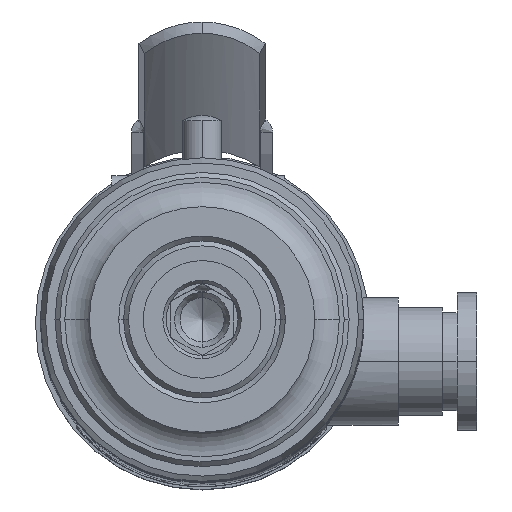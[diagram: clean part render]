
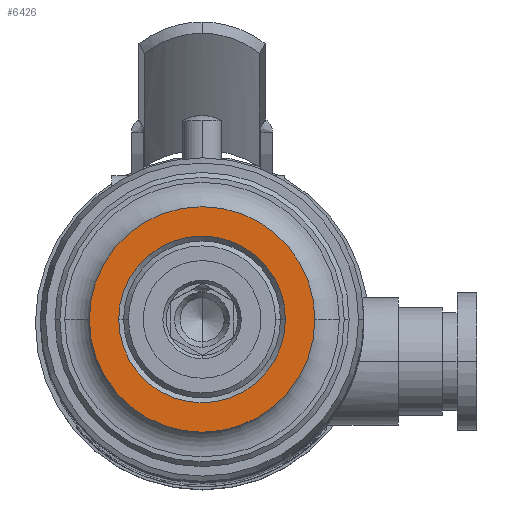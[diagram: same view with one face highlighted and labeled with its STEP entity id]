
A CAD part, top view. The second image highlights one B-rep face of the part: STEP entity #6426.
In plain terms, the highlighted planar face has unit normal (0, 0, 1).
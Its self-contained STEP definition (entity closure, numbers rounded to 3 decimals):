
#1130 = EDGE_LOOP ( 'NONE', ( #6589, #6573 ) ) ;
#5627 = VERTEX_POINT ( 'NONE', #12066 ) ;
#5727 = VERTEX_POINT ( 'NONE', #12428 ) ;
#5746 = VERTEX_POINT ( 'NONE', #12510 ) ;
#5755 = EDGE_CURVE ( 'NONE', #5627, #5746, #12499, .T. ) ;
#5960 = VERTEX_POINT ( 'NONE', #12925 ) ;
#6022 = EDGE_CURVE ( 'NONE', #5960, #5727, #12969, .T. ) ;
#6426 = ADVANCED_FACE ( 'NONE', ( #13965, #13964 ), #13963, .F. ) ;
#6429 = EDGE_CURVE ( 'NONE', #5727, #5960, #13952, .T. ) ;
#6550 = ORIENTED_EDGE ( 'NONE', *, *, #6429, .T. ) ;
#6555 = ORIENTED_EDGE ( 'NONE', *, *, #6022, .T. ) ;
#6556 = EDGE_LOOP ( 'NONE', ( #6555, #6550 ) ) ;
#6573 = ORIENTED_EDGE ( 'NONE', *, *, #5755, .F. ) ;
#6589 = ORIENTED_EDGE ( 'NONE', *, *, #6600, .F. ) ;
#6600 = EDGE_CURVE ( 'NONE', #5746, #5627, #14231, .T. ) ;
#12066 = CARTESIAN_POINT ( 'NONE',  ( -8.5, 0., 0. ) ) ;
#12428 = CARTESIAN_POINT ( 'NONE',  ( -11.5, 0., 0. ) ) ;
#12495 = DIRECTION ( 'NONE',  ( 1., 0., 0. ) ) ;
#12496 = DIRECTION ( 'NONE',  ( 0., 0., 1. ) ) ;
#12497 = CARTESIAN_POINT ( 'NONE',  ( 0., 0., 0. ) ) ;
#12498 = AXIS2_PLACEMENT_3D ( 'NONE', #12497, #12496, #12495 ) ;
#12499 = CIRCLE ( 'NONE', #12498, 8.5 ) ;
#12510 = CARTESIAN_POINT ( 'NONE',  ( 8.5, 0., 0. ) ) ;
#12925 = CARTESIAN_POINT ( 'NONE',  ( 11.5, 0., 0. ) ) ;
#12969 = CIRCLE ( 'NONE', #13028, 11.5 ) ;
#13025 = DIRECTION ( 'NONE',  ( 1., 0., 0. ) ) ;
#13026 = DIRECTION ( 'NONE',  ( 0., 0., 1. ) ) ;
#13027 = CARTESIAN_POINT ( 'NONE',  ( 0., 0., 0. ) ) ;
#13028 = AXIS2_PLACEMENT_3D ( 'NONE', #13027, #13026, #13025 ) ;
#13948 = DIRECTION ( 'NONE',  ( 1., 0., 0. ) ) ;
#13949 = DIRECTION ( 'NONE',  ( 0., 0., 1. ) ) ;
#13950 = CARTESIAN_POINT ( 'NONE',  ( 0., 0., 0. ) ) ;
#13951 = AXIS2_PLACEMENT_3D ( 'NONE', #13950, #13949, #13948 ) ;
#13952 = CIRCLE ( 'NONE', #13951, 11.5 ) ;
#13959 = DIRECTION ( 'NONE',  ( -1., 0., 0. ) ) ;
#13960 = DIRECTION ( 'NONE',  ( 0., 0., -1. ) ) ;
#13961 = CARTESIAN_POINT ( 'NONE',  ( 0., 8.5, 0. ) ) ;
#13962 = AXIS2_PLACEMENT_3D ( 'NONE', #13961, #13960, #13959 ) ;
#13963 = PLANE ( 'NONE',  #13962 ) ;
#13964 = FACE_OUTER_BOUND ( 'NONE', #6556, .T. ) ;
#13965 = FACE_BOUND ( 'NONE', #1130, .T. ) ;
#14227 = DIRECTION ( 'NONE',  ( 1., 0., 0. ) ) ;
#14228 = DIRECTION ( 'NONE',  ( 0., 0., 1. ) ) ;
#14229 = CARTESIAN_POINT ( 'NONE',  ( 0., 0., 0. ) ) ;
#14230 = AXIS2_PLACEMENT_3D ( 'NONE', #14229, #14228, #14227 ) ;
#14231 = CIRCLE ( 'NONE', #14230, 8.5 ) ;
